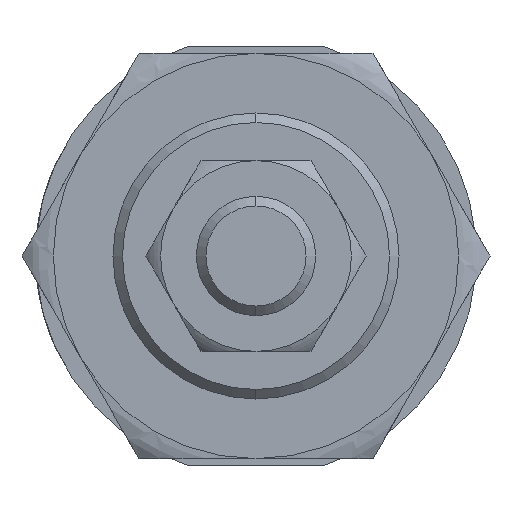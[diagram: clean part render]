
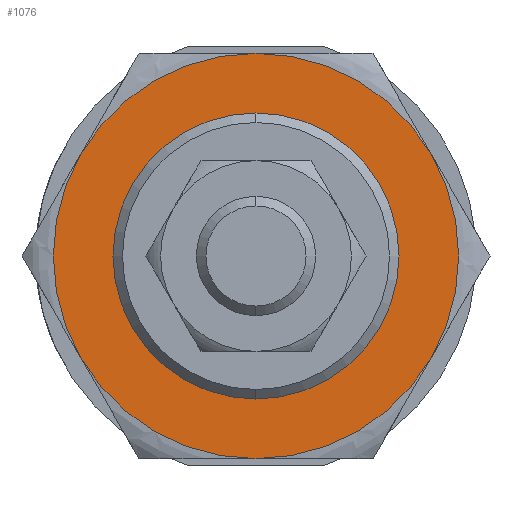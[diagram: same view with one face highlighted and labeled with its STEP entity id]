
A CAD part, left-side view. The second image highlights one B-rep face of the part: STEP entity #1076.
In plain terms, the highlighted planar face has unit normal (-1, 0, 0).
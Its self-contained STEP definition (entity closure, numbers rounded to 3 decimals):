
#36 = VERTEX_POINT ( 'NONE', #1924 ) ;
#71 = DIRECTION ( 'NONE',  ( 0., 0., -1. ) ) ;
#158 = EDGE_CURVE ( 'NONE', #2596, #2238, #2430, .T. ) ;
#200 = AXIS2_PLACEMENT_3D ( 'NONE', #2317, #1729, #456 ) ;
#251 = AXIS2_PLACEMENT_3D ( 'NONE', #280, #2893, #71 ) ;
#256 = CARTESIAN_POINT ( 'NONE',  ( -1.5, 0., 0. ) ) ;
#280 = CARTESIAN_POINT ( 'NONE',  ( -1.5, 0., 0. ) ) ;
#282 = VERTEX_POINT ( 'NONE', #1007 ) ;
#329 = DIRECTION ( 'NONE',  ( 0., 0., -1. ) ) ;
#360 = DIRECTION ( 'NONE',  ( 0., 0., -1. ) ) ;
#361 = DIRECTION ( 'NONE',  ( 0., 0., -1. ) ) ;
#394 = AXIS2_PLACEMENT_3D ( 'NONE', #256, #1776, #361 ) ;
#441 = ORIENTED_EDGE ( 'NONE', *, *, #2382, .F. ) ;
#456 = DIRECTION ( 'NONE',  ( 0., 0., -1. ) ) ;
#493 = DIRECTION ( 'NONE',  ( -1., 0., 0. ) ) ;
#572 = DIRECTION ( 'NONE',  ( 0., 0., -1. ) ) ;
#591 = DIRECTION ( 'NONE',  ( 0., 0., -1. ) ) ;
#597 = EDGE_CURVE ( 'NONE', #36, #713, #2223, .T. ) ;
#644 = PLANE ( 'NONE',  #200 ) ;
#713 = VERTEX_POINT ( 'NONE', #1446 ) ;
#716 = CARTESIAN_POINT ( 'NONE',  ( -1.5, 0., 0. ) ) ;
#717 = CARTESIAN_POINT ( 'NONE',  ( -1.5, 0., 5.25 ) ) ;
#737 = ORIENTED_EDGE ( 'NONE', *, *, #597, .T. ) ;
#788 = ORIENTED_EDGE ( 'NONE', *, *, #158, .F. ) ;
#842 = ORIENTED_EDGE ( 'NONE', *, *, #3074, .T. ) ;
#894 = ORIENTED_EDGE ( 'NONE', *, *, #2884, .T. ) ;
#950 = DIRECTION ( 'NONE',  ( 0., 0., 1. ) ) ;
#975 = ORIENTED_EDGE ( 'NONE', *, *, #2807, .F. ) ;
#1007 = CARTESIAN_POINT ( 'NONE',  ( -1.5, 0., -5.25 ) ) ;
#1076 = ADVANCED_FACE ( 'NONE', ( #2069, #1532 ), #644, .F. ) ;
#1160 = AXIS2_PLACEMENT_3D ( 'NONE', #1378, #1466, #329 ) ;
#1195 = AXIS2_PLACEMENT_3D ( 'NONE', #716, #1252, #360 ) ;
#1252 = DIRECTION ( 'NONE',  ( 1., 0., 0. ) ) ;
#1343 = CARTESIAN_POINT ( 'NONE',  ( -1.5, 7.361, -4.25 ) ) ;
#1378 = CARTESIAN_POINT ( 'NONE',  ( -1.5, 0., 0. ) ) ;
#1411 = VERTEX_POINT ( 'NONE', #1343 ) ;
#1446 = CARTESIAN_POINT ( 'NONE',  ( -1.5, 7.361, 4.25 ) ) ;
#1466 = DIRECTION ( 'NONE',  ( 1., 0., 0. ) ) ;
#1532 = FACE_OUTER_BOUND ( 'NONE', #2308, .T. ) ;
#1540 = AXIS2_PLACEMENT_3D ( 'NONE', #2040, #2891, #572 ) ;
#1568 = VERTEX_POINT ( 'NONE', #1950 ) ;
#1646 = DIRECTION ( 'NONE',  ( 1., 0., 0. ) ) ;
#1692 = CIRCLE ( 'NONE', #1160, 5.25 ) ;
#1715 = CARTESIAN_POINT ( 'NONE',  ( -1.5, 0., 0. ) ) ;
#1729 = DIRECTION ( 'NONE',  ( 1., 0., 0. ) ) ;
#1763 = EDGE_LOOP ( 'NONE', ( #842, #894 ) ) ;
#1776 = DIRECTION ( 'NONE',  ( 1., 0., 0. ) ) ;
#1920 = VERTEX_POINT ( 'NONE', #717 ) ;
#1924 = CARTESIAN_POINT ( 'NONE',  ( -1.5, 0., 8.5 ) ) ;
#1950 = CARTESIAN_POINT ( 'NONE',  ( -1.5, 0., -8.5 ) ) ;
#1965 = CARTESIAN_POINT ( 'NONE',  ( -1.5, -7.361, -4.25 ) ) ;
#2015 = AXIS2_PLACEMENT_3D ( 'NONE', #2196, #1646, #2041 ) ;
#2040 = CARTESIAN_POINT ( 'NONE',  ( -1.5, 0., 0. ) ) ;
#2041 = DIRECTION ( 'NONE',  ( 0., 0., -1. ) ) ;
#2069 = FACE_BOUND ( 'NONE', #1763, .T. ) ;
#2126 = AXIS2_PLACEMENT_3D ( 'NONE', #1715, #2306, #591 ) ;
#2129 = EDGE_CURVE ( 'NONE', #1568, #1411, #2859, .T. ) ;
#2196 = CARTESIAN_POINT ( 'NONE',  ( -1.5, 0., 0. ) ) ;
#2223 = CIRCLE ( 'NONE', #2358, 8.5 ) ;
#2238 = VERTEX_POINT ( 'NONE', #1965 ) ;
#2272 = CIRCLE ( 'NONE', #1195, 8.5 ) ;
#2298 = CARTESIAN_POINT ( 'NONE',  ( -1.5, -7.361, 4.25 ) ) ;
#2306 = DIRECTION ( 'NONE',  ( 1., 0., 0. ) ) ;
#2308 = EDGE_LOOP ( 'NONE', ( #3004, #441, #788, #975, #737, #2501 ) ) ;
#2317 = CARTESIAN_POINT ( 'NONE',  ( -1.5, 0., 0. ) ) ;
#2358 = AXIS2_PLACEMENT_3D ( 'NONE', #2403, #493, #950 ) ;
#2382 = EDGE_CURVE ( 'NONE', #2238, #1568, #2987, .T. ) ;
#2403 = CARTESIAN_POINT ( 'NONE',  ( -1.5, 0., 0. ) ) ;
#2430 = CIRCLE ( 'NONE', #251, 8.5 ) ;
#2501 = ORIENTED_EDGE ( 'NONE', *, *, #3057, .F. ) ;
#2596 = VERTEX_POINT ( 'NONE', #2298 ) ;
#2669 = CIRCLE ( 'NONE', #394, 5.25 ) ;
#2807 = EDGE_CURVE ( 'NONE', #36, #2596, #3070, .T. ) ;
#2859 = CIRCLE ( 'NONE', #2015, 8.5 ) ;
#2884 = EDGE_CURVE ( 'NONE', #1920, #282, #1692, .T. ) ;
#2891 = DIRECTION ( 'NONE',  ( 1., 0., 0. ) ) ;
#2893 = DIRECTION ( 'NONE',  ( 1., 0., 0. ) ) ;
#2987 = CIRCLE ( 'NONE', #2126, 8.5 ) ;
#3004 = ORIENTED_EDGE ( 'NONE', *, *, #2129, .F. ) ;
#3057 = EDGE_CURVE ( 'NONE', #1411, #713, #2272, .T. ) ;
#3070 = CIRCLE ( 'NONE', #1540, 8.5 ) ;
#3074 = EDGE_CURVE ( 'NONE', #282, #1920, #2669, .T. ) ;
